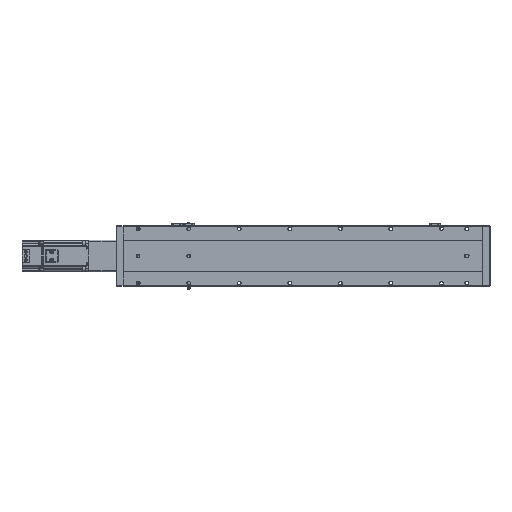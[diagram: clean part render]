
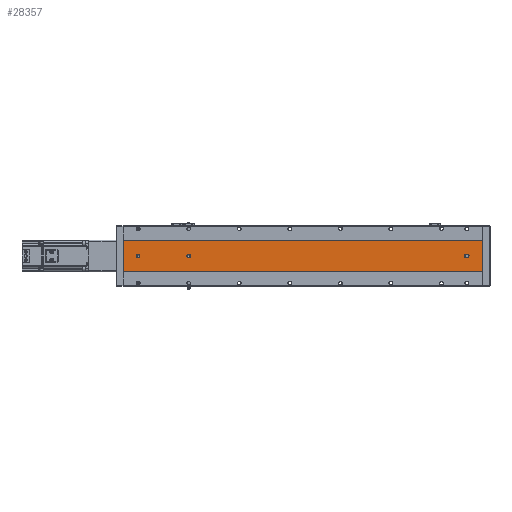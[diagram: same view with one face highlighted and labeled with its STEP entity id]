
A CAD part, front view. The second image highlights one B-rep face of the part: STEP entity #28357.
In plain terms, the highlighted planar face has unit normal (0, -1, 0).
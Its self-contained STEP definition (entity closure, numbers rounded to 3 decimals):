
#55 = DIRECTION ( 'NONE',  ( 1., 0., 0. ) ) ;
#449 = CARTESIAN_POINT ( 'NONE',  ( -39.892, -52.848, 577.5 ) ) ;
#1212 = EDGE_CURVE ( 'NONE', #76068, #13688, #71546, .T. ) ;
#2131 = CIRCLE ( 'NONE', #52182, 3.5 ) ;
#2197 = ORIENTED_EDGE ( 'NONE', *, *, #64700, .T. ) ;
#2551 = CARTESIAN_POINT ( 'NONE',  ( -36.392, -52.848, 30. ) ) ;
#2577 = DIRECTION ( 'NONE',  ( 0., 0., -1. ) ) ;
#3848 = VERTEX_POINT ( 'NONE', #54786 ) ;
#4348 = DIRECTION ( 'NONE',  ( 0., 0., -1. ) ) ;
#4615 = VERTEX_POINT ( 'NONE', #23066 ) ;
#5639 = CIRCLE ( 'NONE', #34522, 3.5 ) ;
#6261 = VERTEX_POINT ( 'NONE', #67982 ) ;
#6586 = EDGE_CURVE ( 'NONE', #73095, #74098, #83835, .T. ) ;
#7088 = DIRECTION ( 'NONE',  ( 0., 0., 1. ) ) ;
#11054 = DIRECTION ( 'NONE',  ( 0., 1., 0. ) ) ;
#11631 = CARTESIAN_POINT ( 'NONE',  ( -69.892, -52.848, 711. ) ) ;
#12663 = EDGE_CURVE ( 'NONE', #71146, #66818, #5639, .T. ) ;
#12895 = DIRECTION ( 'NONE',  ( 0., 0., 1. ) ) ;
#13095 = DIRECTION ( 'NONE',  ( 0., 0., 1. ) ) ;
#13688 = VERTEX_POINT ( 'NONE', #83988 ) ;
#14473 = CARTESIAN_POINT ( 'NONE',  ( -39.892, -52.848, 30. ) ) ;
#16066 = EDGE_CURVE ( 'NONE', #13688, #73095, #18195, .T. ) ;
#18195 = LINE ( 'NONE', #28155, #21444 ) ;
#18937 = CARTESIAN_POINT ( 'NONE',  ( -9.892, -52.848, 0. ) ) ;
#19248 = FACE_BOUND ( 'NONE', #29951, .T. ) ;
#21444 = VECTOR ( 'NONE', #7088, 1000. ) ;
#23066 = CARTESIAN_POINT ( 'NONE',  ( -69.892, -52.848, 0. ) ) ;
#23652 = EDGE_LOOP ( 'NONE', ( #67321, #41986 ) ) ;
#24051 = EDGE_CURVE ( 'NONE', #55906, #88325, #76970, .T. ) ;
#24406 = PLANE ( 'NONE',  #41317 ) ;
#25384 = VECTOR ( 'NONE', #55, 1000. ) ;
#28155 = CARTESIAN_POINT ( 'NONE',  ( -43.392, -52.848, 711. ) ) ;
#28357 = ADVANCED_FACE ( 'NONE', ( #72769, #19248, #30163, #65159 ), #24406, .F. ) ;
#29951 = EDGE_LOOP ( 'NONE', ( #86828, #51012 ) ) ;
#30163 = FACE_BOUND ( 'NONE', #23652, .T. ) ;
#33309 = VECTOR ( 'NONE', #2577, 1000. ) ;
#34522 = AXIS2_PLACEMENT_3D ( 'NONE', #35184, #42486, #63593 ) ;
#35184 = CARTESIAN_POINT ( 'NONE',  ( -39.892, -52.848, 681. ) ) ;
#37565 = ORIENTED_EDGE ( 'NONE', *, *, #69950, .T. ) ;
#40606 = EDGE_CURVE ( 'NONE', #88325, #55906, #2131, .T. ) ;
#41115 = AXIS2_PLACEMENT_3D ( 'NONE', #14473, #42220, #70327 ) ;
#41151 = CARTESIAN_POINT ( 'NONE',  ( -43.392, -52.848, 32. ) ) ;
#41317 = AXIS2_PLACEMENT_3D ( 'NONE', #73237, #68064, #47007 ) ;
#41743 = CARTESIAN_POINT ( 'NONE',  ( -39.892, -52.848, 584.5 ) ) ;
#41986 = ORIENTED_EDGE ( 'NONE', *, *, #12663, .T. ) ;
#42220 = DIRECTION ( 'NONE',  ( 0., 1., 0. ) ) ;
#42486 = DIRECTION ( 'NONE',  ( 0., 1., 0. ) ) ;
#43172 = LINE ( 'NONE', #51381, #86982 ) ;
#46921 = EDGE_CURVE ( 'NONE', #66818, #71146, #64900, .T. ) ;
#47007 = DIRECTION ( 'NONE',  ( 0., 0., 1. ) ) ;
#48126 = CARTESIAN_POINT ( 'NONE',  ( -39.892, -52.848, 677.5 ) ) ;
#48216 = DIRECTION ( 'NONE',  ( 0., 1., 0. ) ) ;
#48508 = CARTESIAN_POINT ( 'NONE',  ( -39.892, -52.848, 581. ) ) ;
#49927 = EDGE_LOOP ( 'NONE', ( #78122, #60554, #37565, #50000, #76580 ) ) ;
#50000 = ORIENTED_EDGE ( 'NONE', *, *, #87594, .T. ) ;
#51011 = DIRECTION ( 'NONE',  ( 0., 1., 0. ) ) ;
#51012 = ORIENTED_EDGE ( 'NONE', *, *, #40606, .T. ) ;
#51381 = CARTESIAN_POINT ( 'NONE',  ( -69.892, -52.848, 711. ) ) ;
#52182 = AXIS2_PLACEMENT_3D ( 'NONE', #52923, #11054, #59992 ) ;
#52923 = CARTESIAN_POINT ( 'NONE',  ( -39.892, -52.848, 581. ) ) ;
#53545 = ORIENTED_EDGE ( 'NONE', *, *, #60893, .F. ) ;
#53587 = CARTESIAN_POINT ( 'NONE',  ( -36.392, -52.848, 711. ) ) ;
#54107 = LINE ( 'NONE', #53587, #33309 ) ;
#54786 = CARTESIAN_POINT ( 'NONE',  ( -69.892, -52.848, 711. ) ) ;
#55906 = VERTEX_POINT ( 'NONE', #449 ) ;
#57144 = VERTEX_POINT ( 'NONE', #2551 ) ;
#57606 = AXIS2_PLACEMENT_3D ( 'NONE', #74241, #75806, #12895 ) ;
#58143 = AXIS2_PLACEMENT_3D ( 'NONE', #48508, #48216, #13095 ) ;
#59992 = DIRECTION ( 'NONE',  ( 0., 0., 1. ) ) ;
#60376 = LINE ( 'NONE', #74247, #25384 ) ;
#60554 = ORIENTED_EDGE ( 'NONE', *, *, #6586, .T. ) ;
#60893 = EDGE_CURVE ( 'NONE', #6261, #79030, #83611, .T. ) ;
#61600 = ORIENTED_EDGE ( 'NONE', *, *, #80248, .T. ) ;
#63593 = DIRECTION ( 'NONE',  ( 0., 0., 1. ) ) ;
#63717 = CARTESIAN_POINT ( 'NONE',  ( -36.392, -52.848, 32. ) ) ;
#64700 = EDGE_CURVE ( 'NONE', #4615, #79030, #60376, .T. ) ;
#64745 = DIRECTION ( 'NONE',  ( 0., 0., 1. ) ) ;
#64900 = CIRCLE ( 'NONE', #87135, 3.5 ) ;
#65017 = VECTOR ( 'NONE', #77835, 1000. ) ;
#65159 = FACE_OUTER_BOUND ( 'NONE', #72505, .T. ) ;
#66818 = VERTEX_POINT ( 'NONE', #48126 ) ;
#67321 = ORIENTED_EDGE ( 'NONE', *, *, #46921, .T. ) ;
#67982 = CARTESIAN_POINT ( 'NONE',  ( -9.892, -52.848, 711. ) ) ;
#68064 = DIRECTION ( 'NONE',  ( 0., 1., 0. ) ) ;
#68645 = LINE ( 'NONE', #11631, #76306 ) ;
#69408 = AXIS2_PLACEMENT_3D ( 'NONE', #78852, #72994, #85581 ) ;
#69950 = EDGE_CURVE ( 'NONE', #74098, #57144, #54107, .T. ) ;
#70327 = DIRECTION ( 'NONE',  ( 0., 0., 1. ) ) ;
#71146 = VERTEX_POINT ( 'NONE', #84773 ) ;
#71546 = CIRCLE ( 'NONE', #69408, 3.5 ) ;
#72347 = CARTESIAN_POINT ( 'NONE',  ( -39.892, -52.848, 681. ) ) ;
#72505 = EDGE_LOOP ( 'NONE', ( #2197, #53545, #85009, #61600 ) ) ;
#72769 = FACE_BOUND ( 'NONE', #49927, .T. ) ;
#72994 = DIRECTION ( 'NONE',  ( 0., 1., 0. ) ) ;
#73095 = VERTEX_POINT ( 'NONE', #41151 ) ;
#73237 = CARTESIAN_POINT ( 'NONE',  ( -69.892, -52.848, 711. ) ) ;
#74098 = VERTEX_POINT ( 'NONE', #63717 ) ;
#74241 = CARTESIAN_POINT ( 'NONE',  ( -39.892, -52.848, 32. ) ) ;
#74247 = CARTESIAN_POINT ( 'NONE',  ( -69.892, -52.848, 0. ) ) ;
#75806 = DIRECTION ( 'NONE',  ( 0., 1., 0. ) ) ;
#76068 = VERTEX_POINT ( 'NONE', #85610 ) ;
#76306 = VECTOR ( 'NONE', #4348, 1000. ) ;
#76580 = ORIENTED_EDGE ( 'NONE', *, *, #1212, .T. ) ;
#76970 = CIRCLE ( 'NONE', #58143, 3.5 ) ;
#77835 = DIRECTION ( 'NONE',  ( 0., 0., -1. ) ) ;
#78122 = ORIENTED_EDGE ( 'NONE', *, *, #16066, .T. ) ;
#78852 = CARTESIAN_POINT ( 'NONE',  ( -39.892, -52.848, 30. ) ) ;
#79030 = VERTEX_POINT ( 'NONE', #18937 ) ;
#79448 = CIRCLE ( 'NONE', #41115, 3.5 ) ;
#80248 = EDGE_CURVE ( 'NONE', #3848, #4615, #68645, .T. ) ;
#81970 = EDGE_CURVE ( 'NONE', #3848, #6261, #43172, .T. ) ;
#83611 = LINE ( 'NONE', #89191, #65017 ) ;
#83835 = CIRCLE ( 'NONE', #57606, 3.5 ) ;
#83988 = CARTESIAN_POINT ( 'NONE',  ( -43.392, -52.848, 30. ) ) ;
#84773 = CARTESIAN_POINT ( 'NONE',  ( -39.892, -52.848, 684.5 ) ) ;
#85009 = ORIENTED_EDGE ( 'NONE', *, *, #81970, .F. ) ;
#85581 = DIRECTION ( 'NONE',  ( 0., 0., 1. ) ) ;
#85610 = CARTESIAN_POINT ( 'NONE',  ( -39.892, -52.848, 26.5 ) ) ;
#86215 = DIRECTION ( 'NONE',  ( 1., 0., 0. ) ) ;
#86828 = ORIENTED_EDGE ( 'NONE', *, *, #24051, .T. ) ;
#86982 = VECTOR ( 'NONE', #86215, 1000. ) ;
#87135 = AXIS2_PLACEMENT_3D ( 'NONE', #72347, #51011, #64745 ) ;
#87594 = EDGE_CURVE ( 'NONE', #57144, #76068, #79448, .T. ) ;
#88325 = VERTEX_POINT ( 'NONE', #41743 ) ;
#89191 = CARTESIAN_POINT ( 'NONE',  ( -9.892, -52.848, 711. ) ) ;
